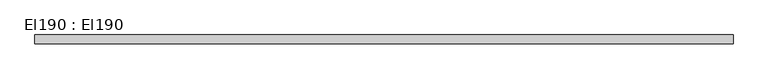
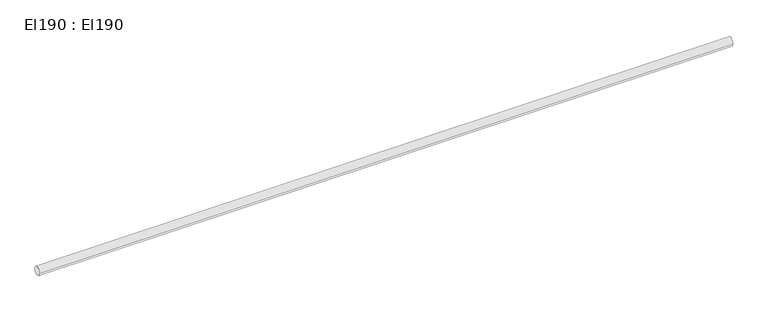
"""IFC4 building model written with IfcOpenShell, lengths in millimetres: cable carrier segment geometry, El190 : El190."""

from ifc_helpers import new_model, si_unit, point, frame, frame_2d, origin, place, context, project, spatial, circle_curve, trimmed, segment, composite_curve, outline, extrude, source, transform, mapped, element, save


def el190_el190_97256b5e(model_context):
    return source(origin(), model_context, "Body", "SweptSolid", [
        extrude(outline(composite_curve([segment(trimmed(circle_curve(frame_2d((33534.7, 2950.0)), 12.0), [point((33522.7, 2950.0))], [point((33546.7, 2950.0))], False, "CARTESIAN"), True, "CONTINUOUS"), segment(trimmed(circle_curve(frame_2d((33534.7, 2950.0)), 12.0), [point((33546.7, 2950.0))], [point((33522.7, 2950.0))], False, "CARTESIAN"), True, "CONTINUOUS")], self_intersect=False)), frame((7651.1, 0.0, 0.0), z_axis=(1.0, 0.0, 0.0), x_axis=(0.0, 1.0, 0.0)), (0.0, 0.0, 1.0), 1900.0),
    ])


if __name__ == "__main__":
    model = new_model("IFC4")
    model_context = context("Model", 3, world=origin())
    ifc_project = project(units=[si_unit("LENGTHUNIT", "METRE", prefix="MILLI")], contexts=[model_context])
    site = spatial("IfcSite", under=ifc_project)
    building = spatial("IfcBuilding", under=site)
    placement = place(None, origin())
    el190_el190_shape = el190_el190_97256b5e(model_context)
    element("IfcCableCarrierSegment", 1, ObjectType="El190 : El190", at=placement, inside=building, context=model_context, shape_type="MappedRepresentation", body=[
        mapped(el190_el190_shape, transform((0.0, 0.0, 0.0), x_axis=(1.0, 0.0, 0.0), y_axis=(0.0, 1.0, 0.0), z_axis=(0.0, 0.0, 1.0))),
    ])
    save(model, "model.ifc")
